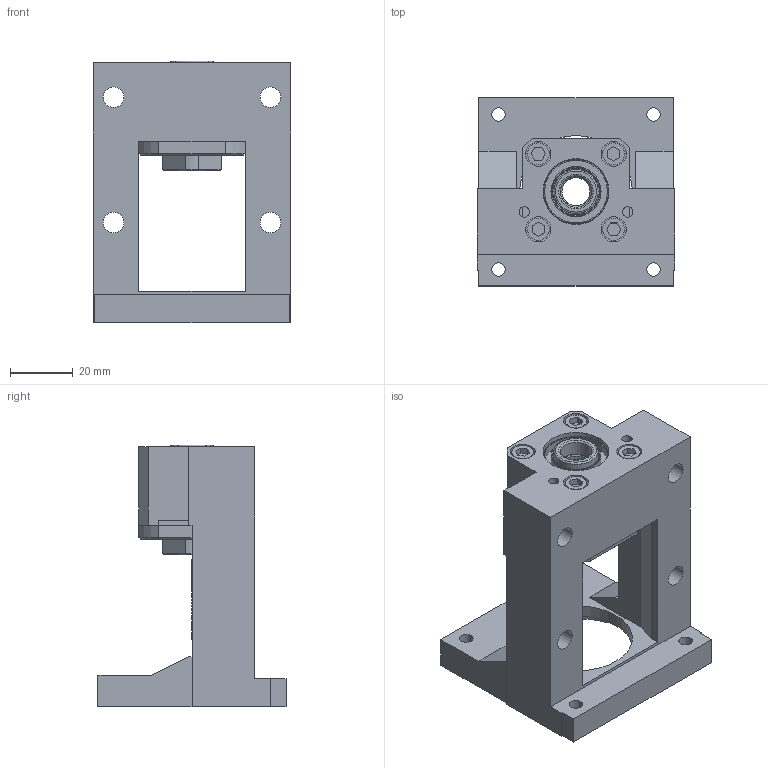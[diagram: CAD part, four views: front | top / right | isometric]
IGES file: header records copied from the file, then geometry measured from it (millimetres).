
Start section: SolidWorks IGES file using analytic representation for surfaces
Bounding box: 63 x 60 x 83.5 mm (x, y, z)
Surface area: 30938.7 mm2 (no closed solid volume)
Topology: 0 solids, 0 shells, 180 faces, 922 edges, 860 vertices
Faces by surface type: bspline 105, revolution 75
